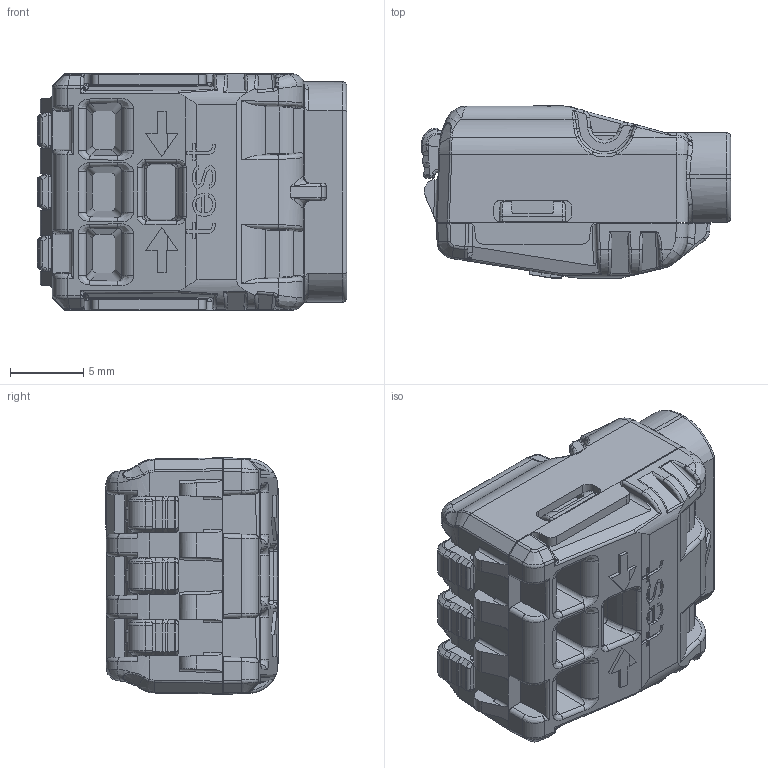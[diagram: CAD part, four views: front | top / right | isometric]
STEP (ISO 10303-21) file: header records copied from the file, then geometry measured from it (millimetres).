
FILE_DESCRIPTION(('CAx-IF Rec.Pracs.---Model Styling and Organization---1.2---2011-12-15','CAx-IF Rec.Pracs.---Geometric and Assembly Validation Properties---4.3---2015-07-16','CAx-IF Rec.Pracs.---Representation and Presentation of Product Manufacturing Information (PMI)---4.0.3---2016-08-25'),'2;1');
FILE_NAME('023YL01Y04.stp','2022-03-18T07:43:50+01:00',(''),(''),'STEP Interface 4.5 by CT CoreTechnologie','3D_Evolution4.5 by CT CoreTechnologie','');
FILE_SCHEMA(('AP203_CONFIGURATION_CONTROLLED_3D_DESIGN_OF_MECHANICAL_PARTS_AND_ASSEMBLIES_MIM_LF'));
Length unit declared in the file: millimetre
Products named in the file (1): 023YL01Y04
Bounding box: 21.08 x 11.72 x 16.1 mm (x, y, z)
Volume: 2527.9 mm3; surface area: 1917.7 mm2
Topology: 1 solids, 1 shells, 2140 faces, 5775 edges, 3667 vertices
Faces by surface type: plane 1322, cylinder 480, bspline 338
Entity records: 167890 total; most frequent: CARTESIAN_POINT 22733, PROPERTY_DEFINITION 12846, ORIENTED_EDGE 11518, DIRECTION 10493, SHAPE_REPRESENTATION 6424, SHAPE_DEFINITION_REPRESENTATION 6424, REPRESENTATION 6423, SHAPE_ASPECT 6423
